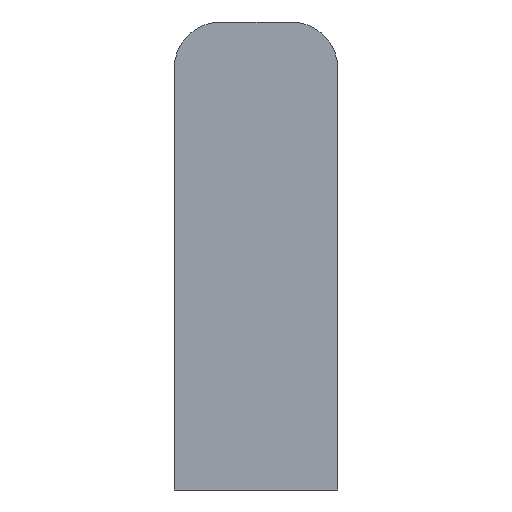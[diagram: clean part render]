
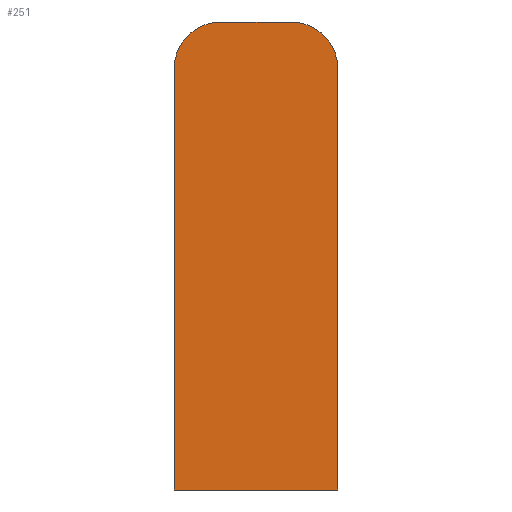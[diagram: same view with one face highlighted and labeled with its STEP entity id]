
A CAD part, front view. The second image highlights one B-rep face of the part: STEP entity #251.
In plain terms, the highlighted planar face has unit normal (0, -1, 0).
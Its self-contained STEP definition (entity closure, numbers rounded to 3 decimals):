
#2 = EDGE_CURVE ( 'NONE', #164, #168, #380, .T. ) ;
#13 = EDGE_CURVE ( 'NONE', #173, #167, #393, .T. ) ;
#19 = AXIS2_PLACEMENT_3D ( 'NONE', #192, #195, #196 ) ;
#24 = EDGE_CURVE ( 'NONE', #172, #164, #403, .T. ) ;
#32 = EDGE_CURVE ( 'NONE', #175, #173, #405, .T. ) ;
#38 = EDGE_CURVE ( 'NONE', #167, #172, #72, .T. ) ;
#42 = AXIS2_PLACEMENT_3D ( 'NONE', #290, #296, #297 ) ;
#49 = AXIS2_PLACEMENT_3D ( 'NONE', #211, #212, #213 ) ;
#57 = EDGE_CURVE ( 'NONE', #168, #175, #75, .T. ) ;
#72 = LINE ( 'NONE', #229, #73 ) ;
#73 = VECTOR ( 'NONE', #228, 1000. ) ;
#75 = LINE ( 'NONE', #235, #85 ) ;
#85 = VECTOR ( 'NONE', #247, 1000. ) ;
#97 = FACE_OUTER_BOUND ( 'NONE', #358, .T. ) ;
#101 = ORIENTED_EDGE ( 'NONE', *, *, #2, .T. ) ;
#102 = ORIENTED_EDGE ( 'NONE', *, *, #57, .T. ) ;
#137 = ORIENTED_EDGE ( 'NONE', *, *, #32, .T. ) ;
#138 = ORIENTED_EDGE ( 'NONE', *, *, #13, .T. ) ;
#139 = ORIENTED_EDGE ( 'NONE', *, *, #38, .T. ) ;
#140 = ORIENTED_EDGE ( 'NONE', *, *, #24, .T. ) ;
#164 = VERTEX_POINT ( 'NONE', #267 ) ;
#167 = VERTEX_POINT ( 'NONE', #281 ) ;
#168 = VERTEX_POINT ( 'NONE', #246 ) ;
#172 = VERTEX_POINT ( 'NONE', #279 ) ;
#173 = VERTEX_POINT ( 'NONE', #278 ) ;
#175 = VERTEX_POINT ( 'NONE', #276 ) ;
#181 = DIRECTION ( 'NONE',  ( 0., 0., -1. ) ) ;
#192 = CARTESIAN_POINT ( 'NONE',  ( 2.25, 0., 10.5 ) ) ;
#195 = DIRECTION ( 'NONE',  ( 0., -1., 0. ) ) ;
#196 = DIRECTION ( 'NONE',  ( -1., 0., 0. ) ) ;
#211 = CARTESIAN_POINT ( 'NONE',  ( -2.25, 0., 10.5 ) ) ;
#212 = DIRECTION ( 'NONE',  ( 0., -1., 0. ) ) ;
#213 = DIRECTION ( 'NONE',  ( -1., 0., 0. ) ) ;
#219 = CARTESIAN_POINT ( 'NONE',  ( -5.25, 0., -16.5 ) ) ;
#228 = DIRECTION ( 'NONE',  ( -1., 0., 0. ) ) ;
#229 = CARTESIAN_POINT ( 'NONE',  ( 2.25, 0., 13.5 ) ) ;
#235 = CARTESIAN_POINT ( 'NONE',  ( 5.25, 0., -16.5 ) ) ;
#237 = CARTESIAN_POINT ( 'NONE',  ( 5.25, 0., -16.5 ) ) ;
#238 = DIRECTION ( 'NONE',  ( 0., 0., 1. ) ) ;
#246 = CARTESIAN_POINT ( 'NONE',  ( -5.25, 0., -16.5 ) ) ;
#247 = DIRECTION ( 'NONE',  ( 1., 0., 0. ) ) ;
#251 = ADVANCED_FACE ( 'NONE', ( #97 ), #291, .F. ) ;
#267 = CARTESIAN_POINT ( 'NONE',  ( -5.25, 0., 10.5 ) ) ;
#276 = CARTESIAN_POINT ( 'NONE',  ( 5.25, 0., -16.5 ) ) ;
#278 = CARTESIAN_POINT ( 'NONE',  ( 5.25, 0., 10.5 ) ) ;
#279 = CARTESIAN_POINT ( 'NONE',  ( -2.25, 0., 13.5 ) ) ;
#281 = CARTESIAN_POINT ( 'NONE',  ( 2.25, 0., 13.5 ) ) ;
#290 = CARTESIAN_POINT ( 'NONE',  ( 0., 0., -1.5 ) ) ;
#291 = PLANE ( 'NONE',  #42 ) ;
#296 = DIRECTION ( 'NONE',  ( 0., 1., 0. ) ) ;
#297 = DIRECTION ( 'NONE',  ( -1., 0., 0. ) ) ;
#358 = EDGE_LOOP ( 'NONE', ( #137, #138, #139, #140, #101, #102 ) ) ;
#380 = LINE ( 'NONE', #219, #381 ) ;
#381 = VECTOR ( 'NONE', #181, 1000. ) ;
#393 = CIRCLE ( 'NONE', #19, 3. ) ;
#401 = VECTOR ( 'NONE', #238, 1000. ) ;
#403 = CIRCLE ( 'NONE', #49, 3. ) ;
#405 = LINE ( 'NONE', #237, #401 ) ;
